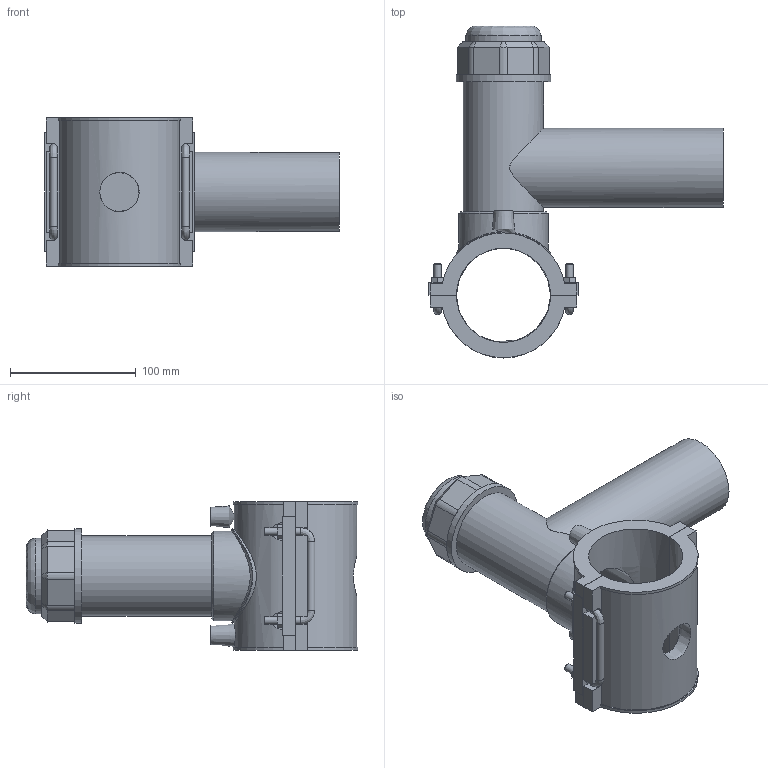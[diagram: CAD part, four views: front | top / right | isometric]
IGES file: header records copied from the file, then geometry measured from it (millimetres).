
Global section: file name: 496304075063.ipt; native system: Autodesk Inventor 2015; preprocessor: unknown; author: KIM; date: 20190124.130725; units: millimetre
Bounding box: 234.5 x 264.23 x 118 mm (x, y, z)
Volume: 851236.6 mm3; surface area: 203947.7 mm2
Topology: 2 solids, 2 shells, 185 faces, 470 edges, 306 vertices
Faces by surface type: plane 111, cylinder 34, revolution 20, cone 15, bspline 5
Full cylindrical faces by diameter (mm): 4 x2, 6 x10, 60 x1, 63 x1, 63.75 x1, 71.25 x1, 75 x2
